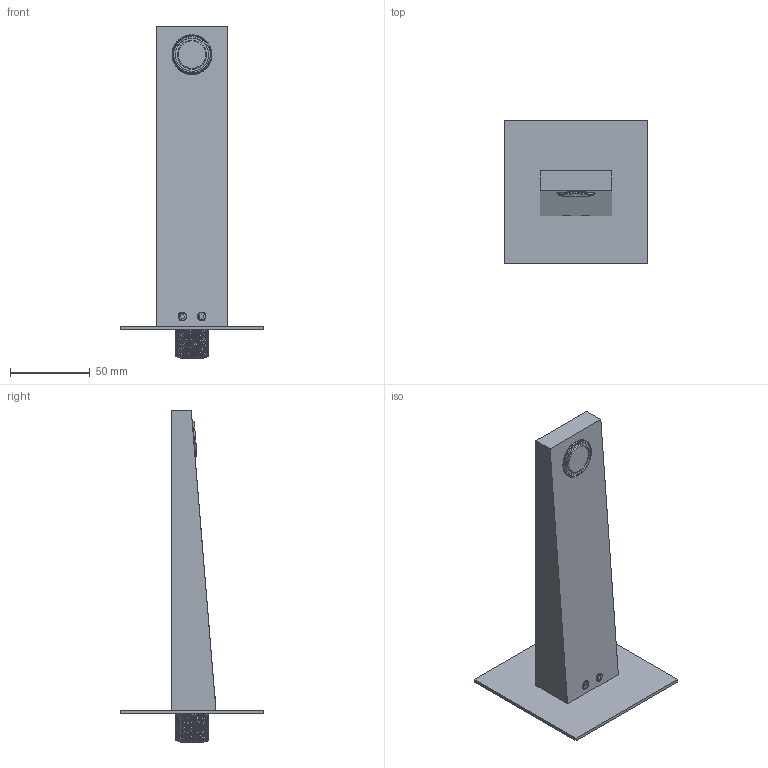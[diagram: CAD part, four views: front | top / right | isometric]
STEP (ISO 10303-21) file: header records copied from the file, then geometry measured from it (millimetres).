
FILE_DESCRIPTION(/* description */ (''),/* implementation_level */ '2;1');
FILE_NAME(/* name */ 'c:\worker\convert-fusion-jan-2019\tmp\job-1\5\output\files\7fcc9420-895e-4dcb-b92c-feb2df8e9940\ce700067-dd45-4926-b1b3-1fb8740ded7e.stp',/* time_stamp */ '2019-01-09T13:09:39+00:00',/* author */ (''),/* organization */ (''),/* preprocessor_version */ 'ST-DEVELOPER v17.2',/* originating_system */ 'Autodesk Translation Framework v7.6.0.251',/* authorisation */ '');
FILE_SCHEMA (('AUTOMOTIVE_DESIGN { 1 0 10303 214 3 1 1 }'));
Length unit declared in the file: millimetre
Products named in the file (1): !WD FRESH
Bounding box: 90 x 90 x 208 mm (x, y, z)
Volume: 28083.4 mm3; surface area: 111882.7 mm2
Topology: 15 solids, 15 shells, 264 faces, 827 edges, 608 vertices
Faces by surface type: plane 123, cylinder 82, bspline 36, cone 18, torus 3, sphere 2
Full cylindrical faces by diameter (mm): 3.25 x2, 4 x1, 4.18 x2, 4.2 x2, 4.5 x1, 5 x8, 5.2 x2, 5.48 x2, 5.5 x2, 7 x1, 12 x2, 14.5 x1, 15 x1, 15.8 x3, 16.98 x1, 17 x3, 20.5 x19, 21 x1, 21.8 x1, 22.5 x1, 23 x2, 23.02 x1, 24 x2, 25 x2, 25.02 x1
Entity records: 20865 total; most frequent: CARTESIAN_POINT 13644, ORIENTED_EDGE 1648, DIRECTION 1286, EDGE_CURVE 824, VERTEX_POINT 608, AXIS2_PLACEMENT_3D 484, LINE 318, VECTOR 318
